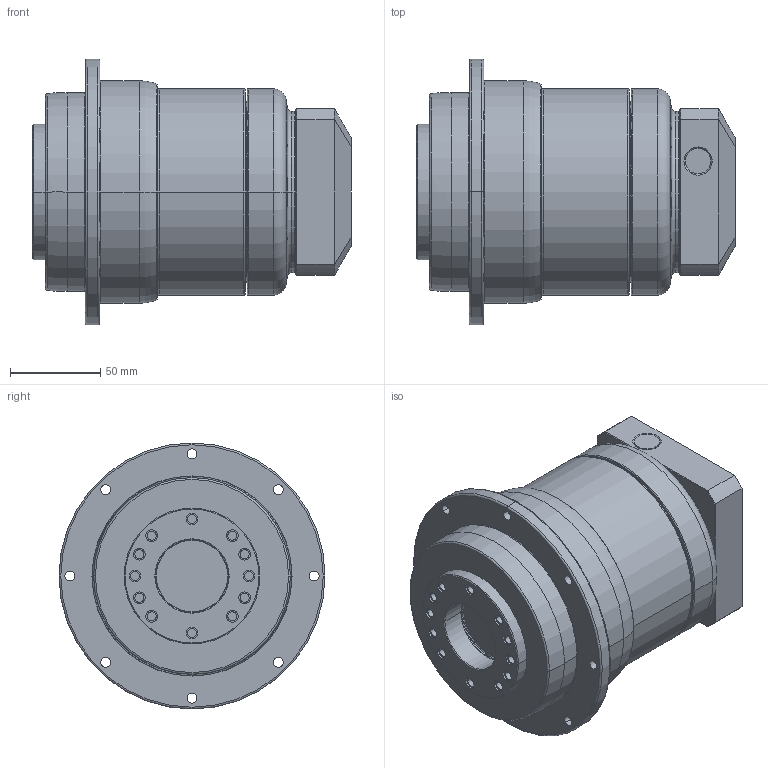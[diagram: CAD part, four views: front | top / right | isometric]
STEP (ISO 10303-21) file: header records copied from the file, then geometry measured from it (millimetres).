
FILE_DESCRIPTION((''),'2;1');
FILE_NAME('PD110_2ST_19-P0411400101_ASM','2016-06-04T',('d01943'),(''),'PRO/ENGINEER BY PARAMETRIC TECHNOLOGY CORPORATION, 2008410','PRO/ENGINEER BY PARAMETRIC TECHNOLOGY CORPORATION, 2008410','');
FILE_SCHEMA(('CONFIG_CONTROL_DESIGN'));
Length unit declared in the file: millimetre
Products named in the file (8): P1355400001; P0367400001; P0275400001; P1324400001; P0411400101; P0503400008; P0941400001; PD110_2ST_19-P0411400101_ASM
Assembly tree (7 placements, depth 2):
  PD110_2ST_19-P0411400101_ASM
    P1355400001
    P0367400001
    P0275400001
    P1324400001
    P0411400101
    P0503400008
    P0941400001
Bounding box: 175.93 x 147 x 147 mm (x, y, z)
Volume: 1618487.9 mm3; surface area: 224326 mm2
Topology: 7 solids, 8 shells, 404 faces, 911 edges, 544 vertices
Faces by surface type: cylinder 156, cone 88, torus 74, plane 72, bspline 14
Entity records: 15946 total; most frequent: CARTESIAN_POINT 6522, DIRECTION 2133, ORIENTED_EDGE 1790, AXIS2_PLACEMENT_3D 918, EDGE_CURVE 895, VERTEX_POINT 544, CIRCLE 513, EDGE_LOOP 491
